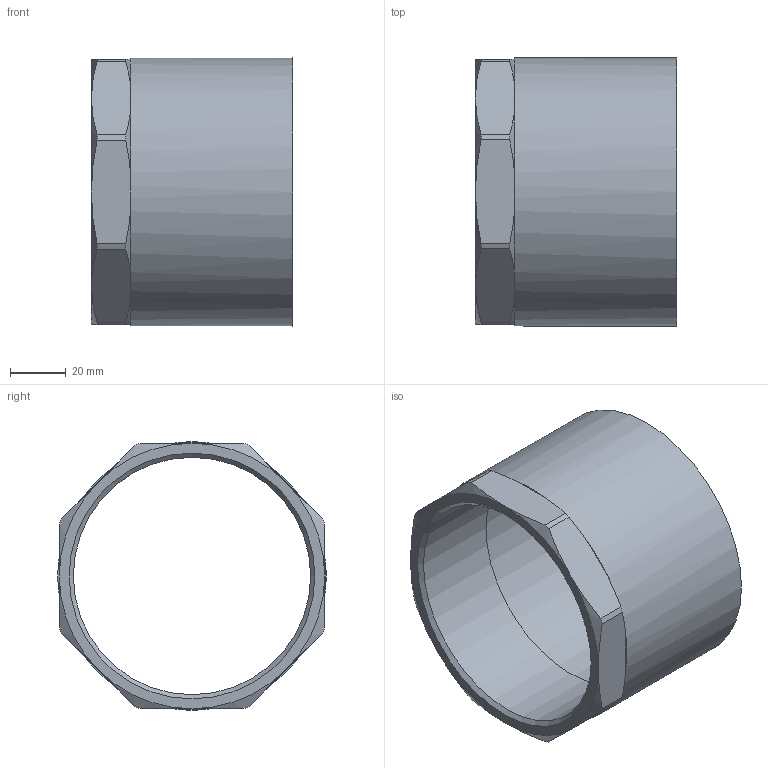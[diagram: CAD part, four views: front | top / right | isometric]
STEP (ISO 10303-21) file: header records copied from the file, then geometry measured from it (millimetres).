
FILE_DESCRIPTION((''),'2;1');
FILE_NAME('C:\Documents and Settings\pajchrowski\Desktop\step\14270_89-3(2).stp','2009-05-07T07:33:26',('pajchrowski'),(''),'Autodesk Inventor 2009','Autodesk Inventor 2009','');
FILE_SCHEMA(('AUTOMOTIVE_DESIGN { 1 0 10303 214 1 1 1 1 }'));
Length unit declared in the file: millimetre
Products named in the file (1): 14270_28-34(2)
Bounding box: 72 x 96 x 96 mm (x, y, z)
Volume: 95073.4 mm3; surface area: 44555.1 mm2
Topology: 1 solids, 1 shells, 48 faces, 109 edges, 64 vertices
Faces by surface type: plane 19, cone 18, cylinder 11
Full cylindrical faces by diameter (mm): 84.926 x1, 88.9 x1, 96 x1
Entity records: 1296 total; most frequent: CARTESIAN_POINT 279, DIRECTION 216, ORIENTED_EDGE 206, EDGE_CURVE 103, AXIS2_PLACEMENT_3D 96, VERTEX_POINT 63, EDGE_LOOP 56, FACE_OUTER_BOUND 48
